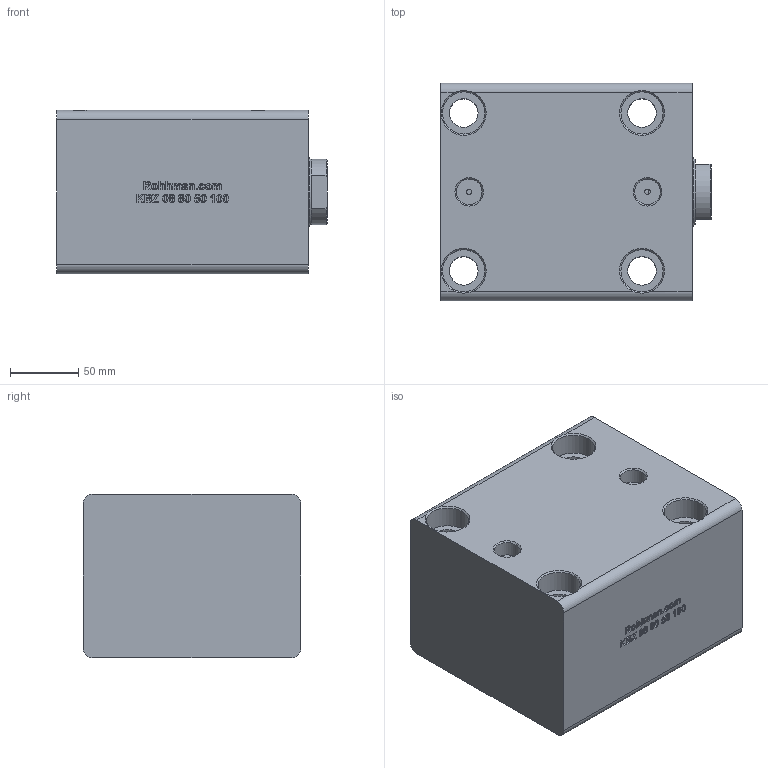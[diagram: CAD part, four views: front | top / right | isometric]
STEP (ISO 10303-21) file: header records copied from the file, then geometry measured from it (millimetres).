
FILE_DESCRIPTION(/* description */ (''),/* implementation_level */ '2;1');
FILE_NAME(/* name */ 'KBZ_08_80_50_100_WEB.step',/* time_stamp */ '2023-09-05T16:54:15+03:00',/* author */ (''),/* organization */ (''),/* preprocessor_version */ 'ST-DEVELOPER v20',/* originating_system */ 'Autodesk Translation Framework v12.9.0.99',/* authorisation */ '');
FILE_SCHEMA (('AUTOMOTIVE_DESIGN { 1 0 10303 214 3 1 1 }'));
Length unit declared in the file: millimetre
Products named in the file (6): KBZ_08_80_50_100_MONTAJ; KAPAK; KAPAK_1; GÖVDE; GÖVDE_1; Ø50_MİL
Assembly tree (5 placements, depth 3):
  KBZ_08_80_50_100_MONTAJ
    KAPAK
      KAPAK_1
    GÖVDE
      GÖVDE_1
    Ø50_MİL
Bounding box: 199 x 160 x 120 mm (x, y, z)
Volume: 3103230.9 mm3; surface area: 238529.4 mm2
Topology: 3 solids, 3 shells, 596 faces, 1613 edges, 1069 vertices
Faces by surface type: bspline 373, plane 177, cylinder 28, cone 18
Full cylindrical faces by diameter (mm): 4 x2, 5 x2, 18.901 x2, 21 x4, 26.491 x1, 31 x4, 50 x1, 50.5 x1, 80 x1, 85 x2, 100 x2
Entity records: 22379 total; most frequent: CARTESIAN_POINT 9717, ORIENTED_EDGE 3226, EDGE_CURVE 1613, DIRECTION 1406, VERTEX_POINT 1069, LINE 774, VECTOR 774, B_SPLINE_CURVE_WITH_KNOTS 754
